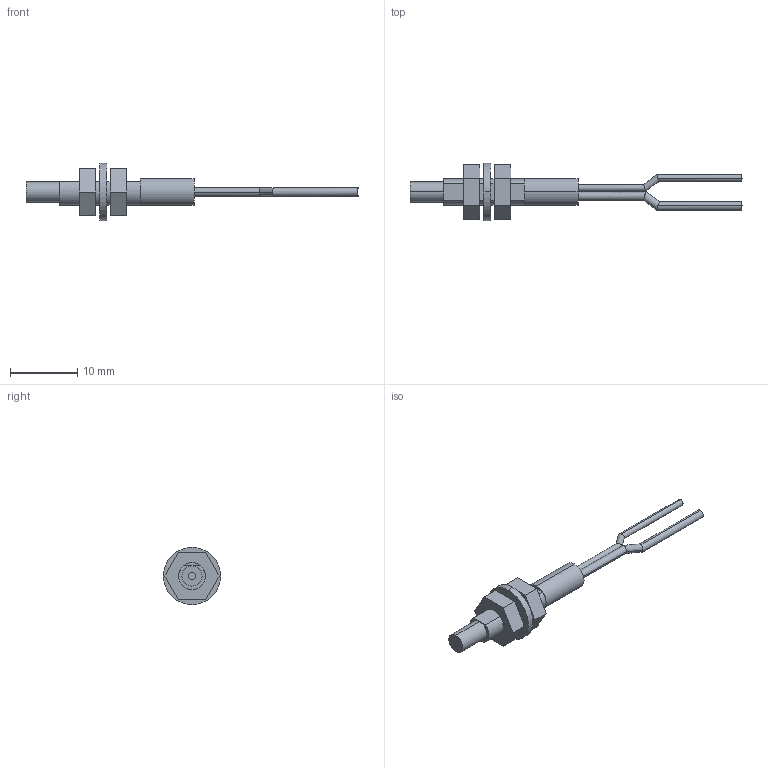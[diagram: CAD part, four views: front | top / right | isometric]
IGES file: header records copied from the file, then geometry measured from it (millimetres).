
Start section: SolidWorks IGES FILE using analytic representation for surfaces
Global section: file name: C:\Documents and Settings\yk0651\デスクトップ\3D_catalog_050929\0_IGES\FD-WG4.IGS; native system: SolidWorks 2004 by SolidWorks Corporation; preprocessor: Version 5.3; author: yk0651; date: 051002.174445; units: millimetre
Bounding box: 49.4 x 8.5 x 8.5 mm (x, y, z)
Volume: 531 mm3; surface area: 1001.3 mm2
Topology: 5 solids, 5 shells, 54 faces, 116 edges, 76 vertices
Faces by surface type: revolution 27, plane 27
